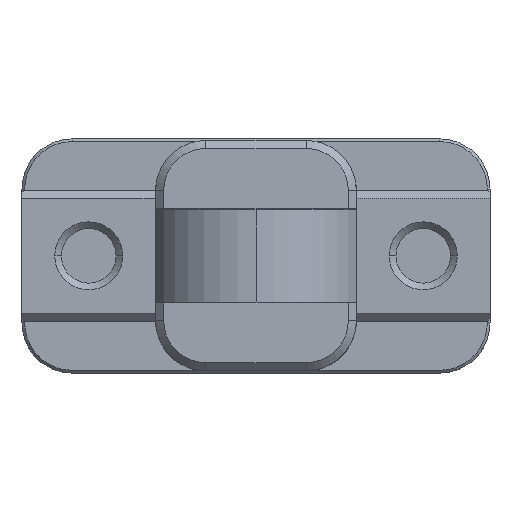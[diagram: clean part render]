
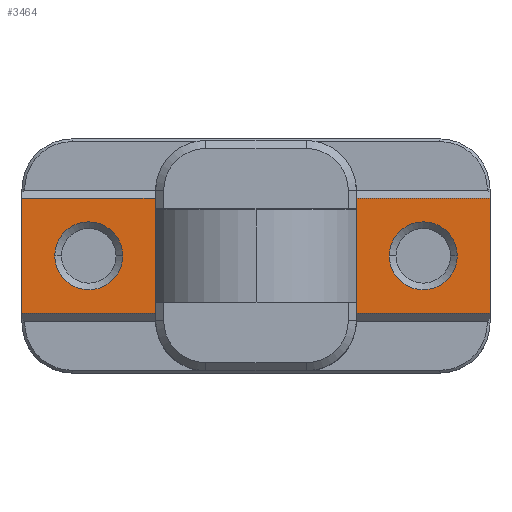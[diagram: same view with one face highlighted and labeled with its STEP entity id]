
A CAD part, top view. The second image highlights one B-rep face of the part: STEP entity #3464.
In plain terms, the highlighted planar face has unit normal (0, 0, 1).
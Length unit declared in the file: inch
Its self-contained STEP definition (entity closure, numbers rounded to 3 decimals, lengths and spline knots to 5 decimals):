
#119 = LINE ( 'NONE', #144, #2442 ) ;
#140 = LINE ( 'NONE', #142, #2451 ) ;
#142 = CARTESIAN_POINT ( 'NONE',  ( 0.8645, -0.215, 0.478 ) ) ;
#143 = DIRECTION ( 'NONE',  ( 1., 0., 0. ) ) ;
#144 = CARTESIAN_POINT ( 'NONE',  ( -0.8645, 0.215, 0.478 ) ) ;
#145 = DIRECTION ( 'NONE',  ( -1., 0., 0. ) ) ;
#147 = CARTESIAN_POINT ( 'NONE',  ( -0.625, 0., 0.478 ) ) ;
#148 = DIRECTION ( 'NONE',  ( 0., 0., 1. ) ) ;
#149 = DIRECTION ( 'NONE',  ( 1., 0., 0. ) ) ;
#151 = CARTESIAN_POINT ( 'NONE',  ( 0.625, 0., 0.478 ) ) ;
#152 = DIRECTION ( 'NONE',  ( 0., 0., 1. ) ) ;
#153 = DIRECTION ( 'NONE',  ( 1., 0., 0. ) ) ;
#198 = LINE ( 'NONE', #199, #1934 ) ;
#199 = CARTESIAN_POINT ( 'NONE',  ( 0.8745, -0.4375, 0.478 ) ) ;
#200 = DIRECTION ( 'NONE',  ( 0., 1., 0. ) ) ;
#228 = VECTOR ( 'NONE', #405, 39.37008 ) ;
#403 = LINE ( 'NONE', #404, #228 ) ;
#404 = CARTESIAN_POINT ( 'NONE',  ( -0.8745, -0.4375, 0.478 ) ) ;
#405 = DIRECTION ( 'NONE',  ( 0., -1., 0. ) ) ;
#768 = DIRECTION ( 'NONE',  ( 0., 0., -1. ) ) ;
#773 = FACE_BOUND ( 'NONE', #2768, .T. ) ;
#776 = CARTESIAN_POINT ( 'NONE',  ( -0.8745, -0.4375, 0.478 ) ) ;
#777 = FACE_BOUND ( 'NONE', #2769, .T. ) ;
#779 = FACE_OUTER_BOUND ( 'NONE', #2767, .T. ) ;
#780 = PLANE ( 'NONE',  #4909 ) ;
#782 = DIRECTION ( 'NONE',  ( -1., 0., 0. ) ) ;
#1586 = EDGE_CURVE ( 'NONE', #2973, #2944, #140, .T. ) ;
#1587 = EDGE_CURVE ( 'NONE', #2945, #2948, #119, .T. ) ;
#1588 = EDGE_CURVE ( 'NONE', #2978, #2977, #2450, .T. ) ;
#1589 = EDGE_CURVE ( 'NONE', #2972, #2971, #2432, .T. ) ;
#1605 = EDGE_CURVE ( 'NONE', #2944, #2945, #198, .T. ) ;
#1625 = EDGE_CURVE ( 'NONE', #2948, #2973, #403, .T. ) ;
#1934 = VECTOR ( 'NONE', #200, 39.37008 ) ;
#2432 = CIRCLE ( 'NONE', #2478, 0.127 ) ;
#2438 = AXIS2_PLACEMENT_3D ( 'NONE', #147, #148, #149 ) ;
#2442 = VECTOR ( 'NONE', #145, 39.37008 ) ;
#2450 = CIRCLE ( 'NONE', #2438, 0.127 ) ;
#2451 = VECTOR ( 'NONE', #143, 39.37008 ) ;
#2478 = AXIS2_PLACEMENT_3D ( 'NONE', #151, #152, #153 ) ;
#2568 = ORIENTED_EDGE ( 'NONE', *, *, #1589, .F. ) ;
#2569 = ORIENTED_EDGE ( 'NONE', *, *, #3393, .F. ) ;
#2570 = ORIENTED_EDGE ( 'NONE', *, *, #1588, .F. ) ;
#2571 = ORIENTED_EDGE ( 'NONE', *, *, #3386, .F. ) ;
#2572 = ORIENTED_EDGE ( 'NONE', *, *, #1605, .T. ) ;
#2573 = ORIENTED_EDGE ( 'NONE', *, *, #1587, .T. ) ;
#2574 = ORIENTED_EDGE ( 'NONE', *, *, #1625, .T. ) ;
#2575 = ORIENTED_EDGE ( 'NONE', *, *, #1586, .T. ) ;
#2767 = EDGE_LOOP ( 'NONE', ( #2572, #2573, #2574, #2575 ) ) ;
#2768 = EDGE_LOOP ( 'NONE', ( #2570, #2571 ) ) ;
#2769 = EDGE_LOOP ( 'NONE', ( #2568, #2569 ) ) ;
#2944 = VERTEX_POINT ( 'NONE', #4145 ) ;
#2945 = VERTEX_POINT ( 'NONE', #4137 ) ;
#2948 = VERTEX_POINT ( 'NONE', #4148 ) ;
#2971 = VERTEX_POINT ( 'NONE', #4171 ) ;
#2972 = VERTEX_POINT ( 'NONE', #4172 ) ;
#2973 = VERTEX_POINT ( 'NONE', #4173 ) ;
#2977 = VERTEX_POINT ( 'NONE', #4177 ) ;
#2978 = VERTEX_POINT ( 'NONE', #4178 ) ;
#3386 = EDGE_CURVE ( 'NONE', #2977, #2978, #4805, .T. ) ;
#3393 = EDGE_CURVE ( 'NONE', #2971, #2972, #4815, .T. ) ;
#3464 = ADVANCED_FACE ( 'NONE', ( #777, #773, #779 ), #780, .F. ) ;
#4137 = CARTESIAN_POINT ( 'NONE',  ( 0.8745, 0.215, 0.478 ) ) ;
#4145 = CARTESIAN_POINT ( 'NONE',  ( 0.8745, -0.215, 0.478 ) ) ;
#4148 = CARTESIAN_POINT ( 'NONE',  ( -0.8745, 0.215, 0.478 ) ) ;
#4171 = CARTESIAN_POINT ( 'NONE',  ( 0.498, 0., 0.478 ) ) ;
#4172 = CARTESIAN_POINT ( 'NONE',  ( 0.752, 0., 0.478 ) ) ;
#4173 = CARTESIAN_POINT ( 'NONE',  ( -0.8745, -0.215, 0.478 ) ) ;
#4177 = CARTESIAN_POINT ( 'NONE',  ( -0.752, 0., 0.478 ) ) ;
#4178 = CARTESIAN_POINT ( 'NONE',  ( -0.498, 0., 0.478 ) ) ;
#4687 = CARTESIAN_POINT ( 'NONE',  ( -0.625, 0., 0.478 ) ) ;
#4688 = DIRECTION ( 'NONE',  ( 0., 0., 1. ) ) ;
#4689 = DIRECTION ( 'NONE',  ( 1., 0., 0. ) ) ;
#4706 = CARTESIAN_POINT ( 'NONE',  ( 0.625, 0., 0.478 ) ) ;
#4707 = DIRECTION ( 'NONE',  ( 0., 0., 1. ) ) ;
#4708 = DIRECTION ( 'NONE',  ( 1., 0., 0. ) ) ;
#4805 = CIRCLE ( 'NONE', #4807, 0.127 ) ;
#4807 = AXIS2_PLACEMENT_3D ( 'NONE', #4687, #4688, #4689 ) ;
#4815 = CIRCLE ( 'NONE', #4817, 0.127 ) ;
#4817 = AXIS2_PLACEMENT_3D ( 'NONE', #4706, #4707, #4708 ) ;
#4909 = AXIS2_PLACEMENT_3D ( 'NONE', #776, #768, #782 ) ;
